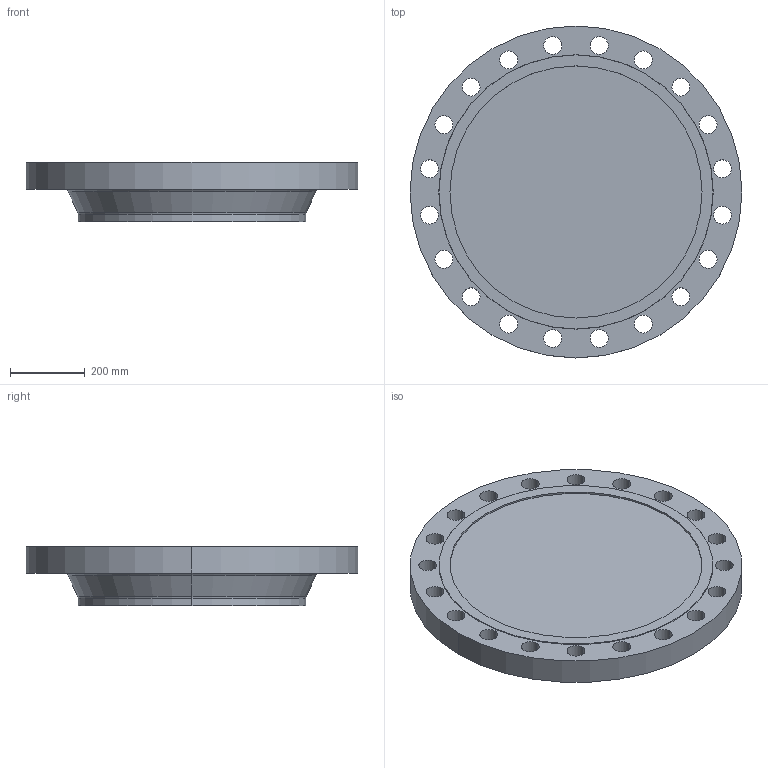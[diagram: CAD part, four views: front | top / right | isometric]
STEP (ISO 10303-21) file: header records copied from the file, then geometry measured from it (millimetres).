
FILE_DESCRIPTION (( 'STEP AP214' ), '1' );
FILE_NAME ('PN40 DN600 Type 21(ii) - Type F Face.STEP', '2018-12-29T04:37:19', ( '' ), ( '' ), 'SwSTEP 2.0', 'SolidWorks 2019', '' );
FILE_SCHEMA (( 'AUTOMOTIVE_DESIGN' ));
Length unit declared in the file: millimetre
Products named in the file (1): PN40 DN600 Type 21(ii) - Type F Face
Bounding box: 890 x 890 x 160 mm (x, y, z)
Volume: 67772356.9 mm3; surface area: 1716808 mm2
Topology: 1 solids, 1 shells, 59 faces, 156 edges, 102 vertices
Faces by surface type: cylinder 46, plane 5, torus 4, cone 4
Entity records: 2002 total; most frequent: DIRECTION 382, CARTESIAN_POINT 318, ORIENTED_EDGE 312, AXIS2_PLACEMENT_3D 166, EDGE_CURVE 156, CIRCLE 106, EDGE_LOOP 102, VERTEX_POINT 102
